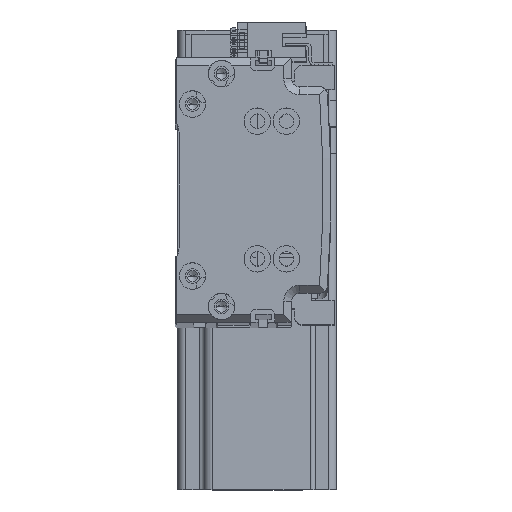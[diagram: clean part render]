
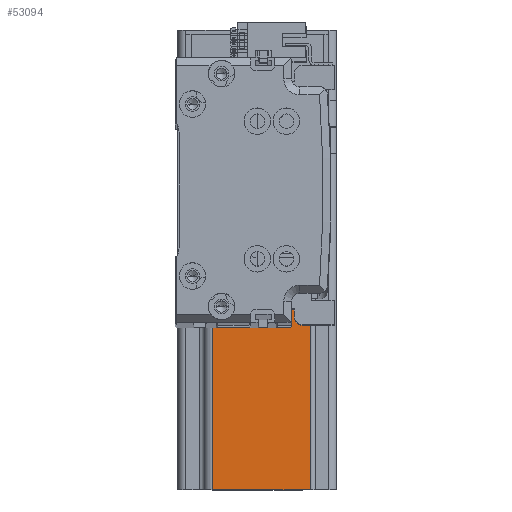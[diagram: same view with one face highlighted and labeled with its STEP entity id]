
A CAD part, top view. The second image highlights one B-rep face of the part: STEP entity #53094.
In plain terms, the highlighted planar face has unit normal (0, 0, 1) as drawn and (-1, 0, 0) by its records, which use the part's own axes.
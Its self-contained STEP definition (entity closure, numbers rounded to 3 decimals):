
#712 = CARTESIAN_POINT ( 'NONE',  ( -30., -27., 137. ) ) ;
#1260 = LINE ( 'NONE', #14108, #22624 ) ;
#2211 = VECTOR ( 'NONE', #20714, 1000. ) ;
#2973 = FACE_OUTER_BOUND ( 'NONE', #13191, .T. ) ;
#3117 = CARTESIAN_POINT ( 'NONE',  ( -30., -17., 10. ) ) ;
#3174 = CARTESIAN_POINT ( 'NONE',  ( -30., -27., 0. ) ) ;
#4846 = DIRECTION ( 'NONE',  ( 0., 0., 1. ) ) ;
#5747 = ORIENTED_EDGE ( 'NONE', *, *, #49642, .T. ) ;
#6537 = DIRECTION ( 'NONE',  ( 0., -1., 0. ) ) ;
#6620 = DIRECTION ( 'NONE',  ( 0., 1., 0. ) ) ;
#6978 = CARTESIAN_POINT ( 'NONE',  ( -30., 27., 0. ) ) ;
#7096 = AXIS2_PLACEMENT_3D ( 'NONE', #42243, #16756, #46476 ) ;
#7135 = CARTESIAN_POINT ( 'NONE',  ( -30., 20., 10. ) ) ;
#10504 = ORIENTED_EDGE ( 'NONE', *, *, #15404, .T. ) ;
#11761 = EDGE_CURVE ( 'NONE', #37239, #16474, #14796, .T. ) ;
#12135 = CARTESIAN_POINT ( 'NONE',  ( -30., -30., 137. ) ) ;
#13191 = EDGE_LOOP ( 'NONE', ( #52996, #47168, #33986, #21548, #34054, #5747, #17672, #10504 ) ) ;
#14108 = CARTESIAN_POINT ( 'NONE',  ( -30., 27., 137. ) ) ;
#14796 = LINE ( 'NONE', #40929, #36046 ) ;
#15397 = VECTOR ( 'NONE', #6620, 1000. ) ;
#15404 = EDGE_CURVE ( 'NONE', #22924, #54078, #52048, .T. ) ;
#16423 = EDGE_CURVE ( 'NONE', #33214, #24419, #36444, .T. ) ;
#16474 = VERTEX_POINT ( 'NONE', #29666 ) ;
#16499 = CARTESIAN_POINT ( 'NONE',  ( -30., 20., 10. ) ) ;
#16724 = LINE ( 'NONE', #32107, #15397 ) ;
#16756 = DIRECTION ( 'NONE',  ( 1., 0., 0. ) ) ;
#17672 = ORIENTED_EDGE ( 'NONE', *, *, #30754, .T. ) ;
#19238 = CARTESIAN_POINT ( 'NONE',  ( -30., -30., 10. ) ) ;
#20201 = CARTESIAN_POINT ( 'NONE',  ( -30., -30., 0. ) ) ;
#20714 = DIRECTION ( 'NONE',  ( 0., -1., 0. ) ) ;
#20845 = PLANE ( 'NONE',  #7096 ) ;
#21548 = ORIENTED_EDGE ( 'NONE', *, *, #16423, .F. ) ;
#22624 = VECTOR ( 'NONE', #39548, 1000. ) ;
#22924 = VERTEX_POINT ( 'NONE', #3174 ) ;
#24237 = CARTESIAN_POINT ( 'NONE',  ( -30., -27., 10. ) ) ;
#24419 = VERTEX_POINT ( 'NONE', #38175 ) ;
#25257 = VERTEX_POINT ( 'NONE', #6978 ) ;
#26792 = EDGE_CURVE ( 'NONE', #33214, #49954, #16724, .T. ) ;
#29666 = CARTESIAN_POINT ( 'NONE',  ( -30., -17., 137. ) ) ;
#30754 = EDGE_CURVE ( 'NONE', #25257, #22924, #37928, .T. ) ;
#31085 = LINE ( 'NONE', #19238, #41076 ) ;
#32107 = CARTESIAN_POINT ( 'NONE',  ( -30., 30., 10. ) ) ;
#33214 = VERTEX_POINT ( 'NONE', #7135 ) ;
#33986 = ORIENTED_EDGE ( 'NONE', *, *, #43321, .F. ) ;
#34054 = ORIENTED_EDGE ( 'NONE', *, *, #26792, .T. ) ;
#35105 = VECTOR ( 'NONE', #50444, 1000. ) ;
#36046 = VECTOR ( 'NONE', #36835, 1000. ) ;
#36444 = LINE ( 'NONE', #16499, #35105 ) ;
#36835 = DIRECTION ( 'NONE',  ( 0., 0., 1. ) ) ;
#37239 = VERTEX_POINT ( 'NONE', #3117 ) ;
#37302 = CARTESIAN_POINT ( 'NONE',  ( -30., 27., 10. ) ) ;
#37928 = LINE ( 'NONE', #20201, #50512 ) ;
#38175 = CARTESIAN_POINT ( 'NONE',  ( -30., 20., 137. ) ) ;
#39548 = DIRECTION ( 'NONE',  ( 0., 0., -1. ) ) ;
#40929 = CARTESIAN_POINT ( 'NONE',  ( -30., -17., 137. ) ) ;
#41076 = VECTOR ( 'NONE', #6537, 1000. ) ;
#42243 = CARTESIAN_POINT ( 'NONE',  ( -30., -30., 137. ) ) ;
#42352 = EDGE_CURVE ( 'NONE', #37239, #54078, #31085, .T. ) ;
#43321 = EDGE_CURVE ( 'NONE', #24419, #16474, #46185, .T. ) ;
#46185 = LINE ( 'NONE', #12135, #2211 ) ;
#46476 = DIRECTION ( 'NONE',  ( 0., 0., -1. ) ) ;
#47168 = ORIENTED_EDGE ( 'NONE', *, *, #11761, .T. ) ;
#49642 = EDGE_CURVE ( 'NONE', #49954, #25257, #1260, .T. ) ;
#49860 = DIRECTION ( 'NONE',  ( 0., -1., 0. ) ) ;
#49954 = VERTEX_POINT ( 'NONE', #37302 ) ;
#50444 = DIRECTION ( 'NONE',  ( 0., 0., 1. ) ) ;
#50512 = VECTOR ( 'NONE', #49860, 1000. ) ;
#50707 = VECTOR ( 'NONE', #4846, 1000. ) ;
#52048 = LINE ( 'NONE', #712, #50707 ) ;
#52996 = ORIENTED_EDGE ( 'NONE', *, *, #42352, .F. ) ;
#53094 = ADVANCED_FACE ( 'NONE', ( #2973 ), #20845, .F. ) ;
#54078 = VERTEX_POINT ( 'NONE', #24237 ) ;
